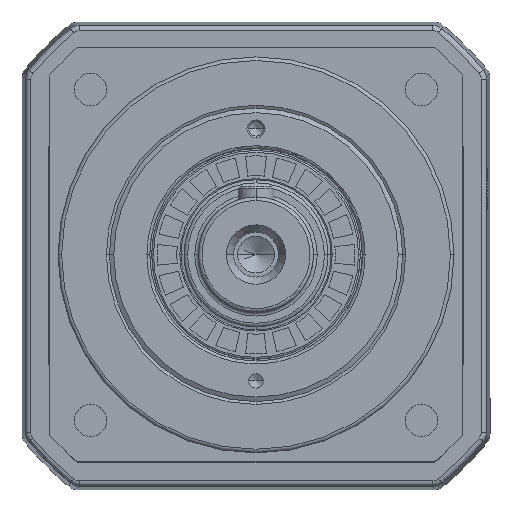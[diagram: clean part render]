
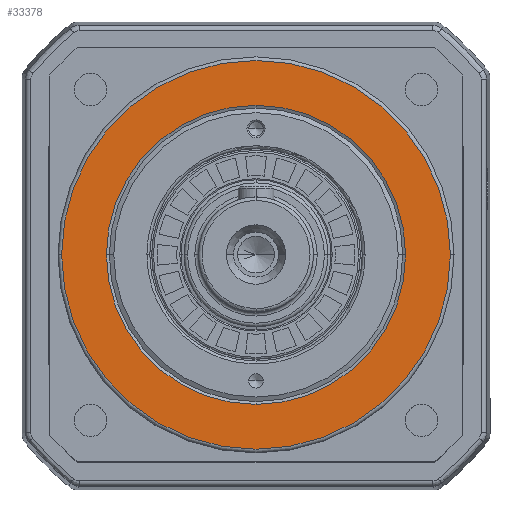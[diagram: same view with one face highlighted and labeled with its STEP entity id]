
A CAD part, top view. The second image highlights one B-rep face of the part: STEP entity #33378.
In plain terms, the highlighted planar face has unit normal (0, 0, 1).
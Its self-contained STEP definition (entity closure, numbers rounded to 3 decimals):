
#373 = AXIS2_PLACEMENT_3D ( 'NONE', #18689, #18680, #18588 ) ;
#475 = EDGE_LOOP ( 'NONE', ( #4772, #70166 ) ) ;
#2840 = CARTESIAN_POINT ( 'NONE',  ( -54., 0., 72.5 ) ) ;
#4058 = EDGE_CURVE ( 'NONE', #13441, #13812, #21714, .T. ) ;
#4772 = ORIENTED_EDGE ( 'NONE', *, *, #4058, .T. ) ;
#8089 = CARTESIAN_POINT ( 'NONE',  ( 0., -41.55, 72.5 ) ) ;
#11921 = EDGE_CURVE ( 'NONE', #13812, #13441, #32892, .T. ) ;
#13441 = VERTEX_POINT ( 'NONE', #8089 ) ;
#13812 = VERTEX_POINT ( 'NONE', #23681 ) ;
#18588 = DIRECTION ( 'NONE',  ( 0., -1., 0. ) ) ;
#18680 = DIRECTION ( 'NONE',  ( 0., 0., -1. ) ) ;
#18689 = CARTESIAN_POINT ( 'NONE',  ( 0., 0., 72.5 ) ) ;
#19166 = DIRECTION ( 'NONE',  ( 0., 0., -1. ) ) ;
#21714 = CIRCLE ( 'NONE', #50013, 41.55 ) ;
#23681 = CARTESIAN_POINT ( 'NONE',  ( 0., 41.55, 72.5 ) ) ;
#24588 = CARTESIAN_POINT ( 'NONE',  ( 0., 0., 72.5 ) ) ;
#27566 = CIRCLE ( 'NONE', #39765, 54. ) ;
#30299 = DIRECTION ( 'NONE',  ( 1., 0., 0. ) ) ;
#30517 = FACE_OUTER_BOUND ( 'NONE', #69196, .T. ) ;
#31021 = DIRECTION ( 'NONE',  ( 0., 0., -1. ) ) ;
#32892 = CIRCLE ( 'NONE', #373, 41.55 ) ;
#33378 = ADVANCED_FACE ( 'NONE', ( #30517, #58693 ), #58149, .T. ) ;
#33458 = EDGE_CURVE ( 'NONE', #50937, #62147, #68335, .T. ) ;
#37768 = CARTESIAN_POINT ( 'NONE',  ( 54., 0., 72.5 ) ) ;
#39765 = AXIS2_PLACEMENT_3D ( 'NONE', #64698, #31021, #70318 ) ;
#50013 = AXIS2_PLACEMENT_3D ( 'NONE', #67696, #67458, #67219 ) ;
#50937 = VERTEX_POINT ( 'NONE', #37768 ) ;
#51816 = ORIENTED_EDGE ( 'NONE', *, *, #56912, .F. ) ;
#52978 = CARTESIAN_POINT ( 'NONE',  ( 0., 0., 72.5 ) ) ;
#56356 = ORIENTED_EDGE ( 'NONE', *, *, #33458, .F. ) ;
#56912 = EDGE_CURVE ( 'NONE', #62147, #50937, #27566, .T. ) ;
#58149 = PLANE ( 'NONE',  #63560 ) ;
#58614 = DIRECTION ( 'NONE',  ( 1., 0., 0. ) ) ;
#58693 = FACE_BOUND ( 'NONE', #475, .T. ) ;
#59844 = AXIS2_PLACEMENT_3D ( 'NONE', #52978, #19166, #58614 ) ;
#62147 = VERTEX_POINT ( 'NONE', #2840 ) ;
#63560 = AXIS2_PLACEMENT_3D ( 'NONE', #24588, #63980, #30299 ) ;
#63980 = DIRECTION ( 'NONE',  ( 0., 0., 1. ) ) ;
#64698 = CARTESIAN_POINT ( 'NONE',  ( 0., 0., 72.5 ) ) ;
#67219 = DIRECTION ( 'NONE',  ( 0., -1., 0. ) ) ;
#67458 = DIRECTION ( 'NONE',  ( 0., 0., -1. ) ) ;
#67696 = CARTESIAN_POINT ( 'NONE',  ( 0., 0., 72.5 ) ) ;
#68335 = CIRCLE ( 'NONE', #59844, 54. ) ;
#69196 = EDGE_LOOP ( 'NONE', ( #56356, #51816 ) ) ;
#70166 = ORIENTED_EDGE ( 'NONE', *, *, #11921, .T. ) ;
#70318 = DIRECTION ( 'NONE',  ( 1., 0., 0. ) ) ;
